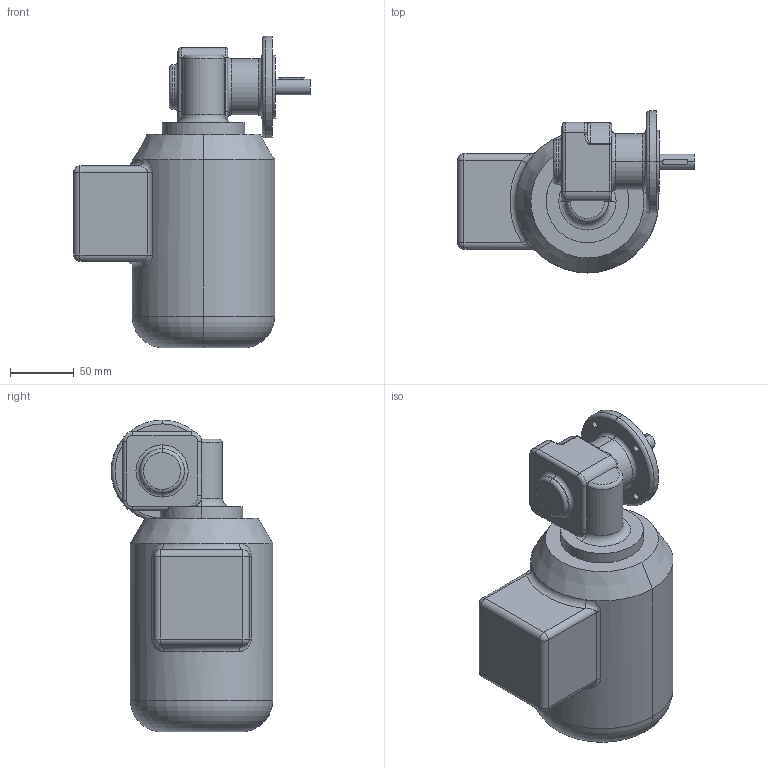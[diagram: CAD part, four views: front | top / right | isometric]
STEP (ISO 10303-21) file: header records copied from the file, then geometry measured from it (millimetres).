
FILE_DESCRIPTION (( 'STEP AP203' ), '1' );
FILE_NAME ('SN5FR-90,120W-D.STEP', '2007-09-13T06:20:58', ( ' ' ), ( ' ' ), 'SwSTEP 2.0', 'SolidWorks 2006233', '' );
FILE_SCHEMA (( 'CONFIG_CONTROL_DESIGN' ));
Length unit declared in the file: millimetre
Products named in the file (3): BG56of_Standard; SN5FR-90,120W-D; SN5FR-Lose_Standard
Assembly tree (2 placements, depth 2):
  SN5FR-90,120W-D
    BG56of_Standard
    SN5FR-Lose_Standard
Bounding box: 186 x 127 x 245 mm (x, y, z)
Volume: 2145983.7 mm3; surface area: 123053.8 mm2
Topology: 2 solids, 2 shells, 138 faces, 315 edges, 180 vertices
Faces by surface type: cylinder 61, torus 32, plane 27, sphere 8, bspline 8, cone 2
Entity records: 5048 total; most frequent: CARTESIAN_POINT 1632, DIRECTION 721, ORIENTED_EDGE 618, EDGE_CURVE 309, AXIS2_PLACEMENT_3D 309, VERTEX_POINT 180, CIRCLE 174, EDGE_LOOP 151
